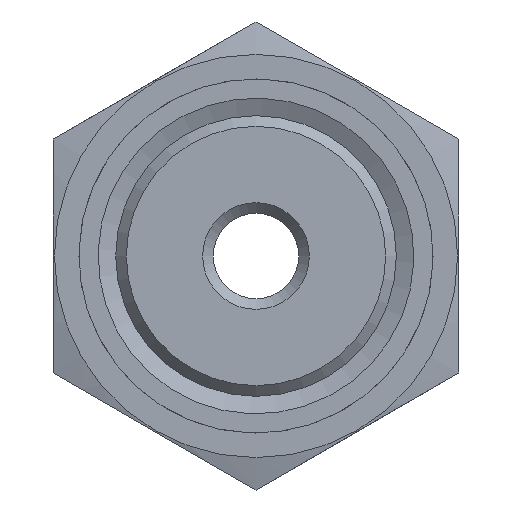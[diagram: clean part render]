
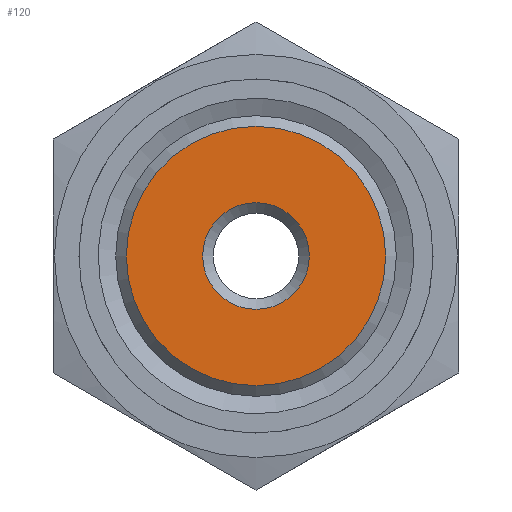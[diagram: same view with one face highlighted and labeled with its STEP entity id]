
A CAD part, left-side view. The second image highlights one B-rep face of the part: STEP entity #120.
In plain terms, the highlighted planar face has unit normal (-1, 0, 0).
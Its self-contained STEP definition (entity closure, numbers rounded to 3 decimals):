
#120 = ADVANCED_FACE( '', ( #247, #248 ), #249, .T. );
#247 = FACE_BOUND( '', #407, .T. );
#248 = FACE_OUTER_BOUND( '', #408, .T. );
#249 = PLANE( '', #409 );
#407 = EDGE_LOOP( '', ( #579 ) );
#408 = EDGE_LOOP( '', ( #580 ) );
#409 = AXIS2_PLACEMENT_3D( '', #581, #582, #583 );
#579 = ORIENTED_EDGE( '', *, *, #803, .T. );
#580 = ORIENTED_EDGE( '', *, *, #804, .T. );
#581 = CARTESIAN_POINT( '', ( -32., -9.5, -5.485 ) );
#582 = DIRECTION( '', ( -1., 0., 0. ) );
#583 = DIRECTION( '', ( 0., -1., 0. ) );
#803 = EDGE_CURVE( '', #909, #909, #910, .F. );
#804 = EDGE_CURVE( '', #911, #911, #912, .T. );
#909 = VERTEX_POINT( '', #1099 );
#910 = CIRCLE( '', #1100, 2.5 );
#911 = VERTEX_POINT( '', #1101 );
#912 = CIRCLE( '', #1102, 6.079 );
#1099 = CARTESIAN_POINT( '', ( -32., -2.5, 0. ) );
#1100 = AXIS2_PLACEMENT_3D( '', #1262, #1263, #1264 );
#1101 = CARTESIAN_POINT( '', ( -32., -6.079, 0. ) );
#1102 = AXIS2_PLACEMENT_3D( '', #1265, #1266, #1267 );
#1262 = CARTESIAN_POINT( '', ( -32., 0., 0. ) );
#1263 = DIRECTION( '', ( -1., 0., 0. ) );
#1264 = DIRECTION( '', ( 0., -1., 0. ) );
#1265 = CARTESIAN_POINT( '', ( -32., 0., 0. ) );
#1266 = DIRECTION( '', ( -1., 0., 0. ) );
#1267 = DIRECTION( '', ( 0., -1., 0. ) );
